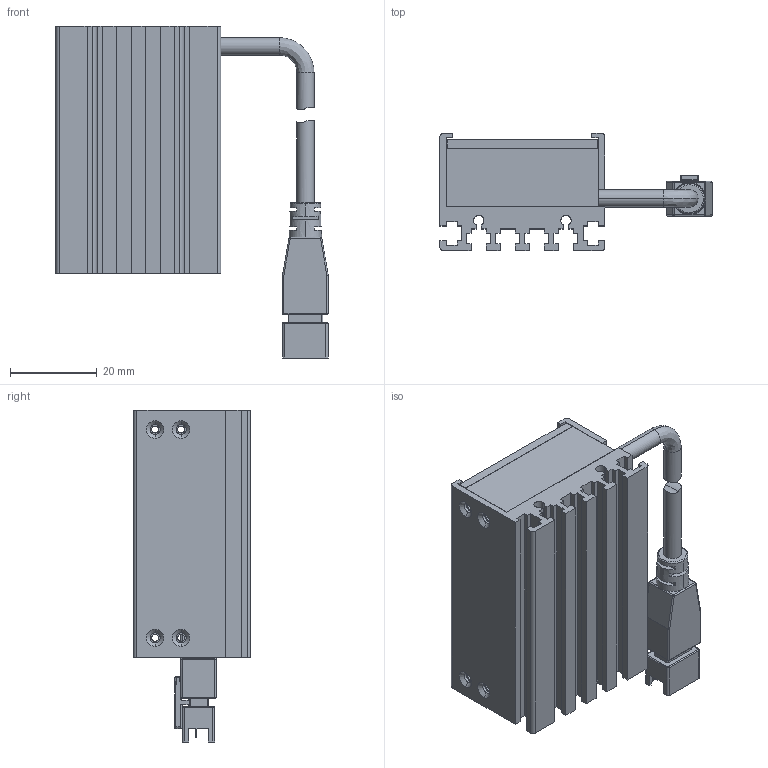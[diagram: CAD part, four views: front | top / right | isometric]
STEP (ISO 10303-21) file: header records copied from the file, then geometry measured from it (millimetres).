
FILE_DESCRIPTION (( 'STEP AP203' ), '1' );
FILE_NAME ('CRT-2BL-38-¼òÒ×3DÍ¼.STEP', '2022-03-04T06:24:18', ( 'Admin' ), ( '' ), 'SwSTEP 2.0', 'SolidWorks 2018', '' );
FILE_SCHEMA (( 'CONFIG_CONTROL_DESIGN' ));
Length unit declared in the file: millimetre
Products named in the file (1): CRT-2BL-38-潠眢3D芞
Bounding box: 62.75 x 27 x 76.5 mm (x, y, z)
Surface area: 23697.8 mm2 (no closed solid volume)
Topology: 0 solids, 6 shells, 374 faces, 1085 edges, 703 vertices
Faces by surface type: plane 224, cylinder 99, bspline 29, cone 22
Entity records: 12865 total; most frequent: CARTESIAN_POINT 3029, ORIENTED_EDGE 2038, DIRECTION 1962, EDGE_CURVE 1073, VECTOR 768, LINE 768, VERTEX_POINT 703, AXIS2_PLACEMENT_3D 597
